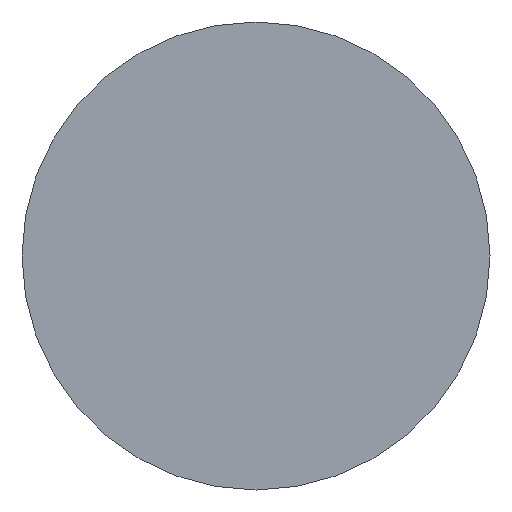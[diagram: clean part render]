
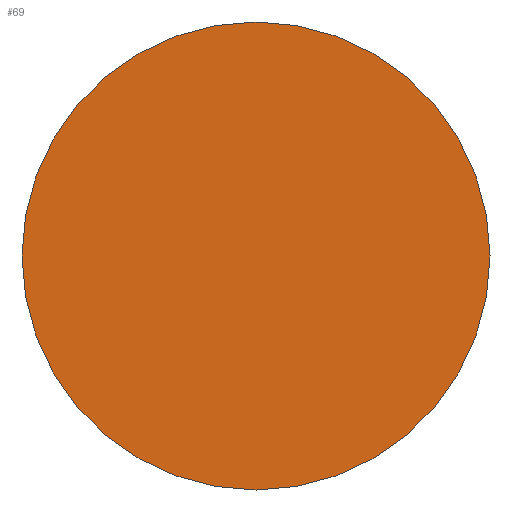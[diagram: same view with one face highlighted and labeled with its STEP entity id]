
A CAD part, front view. The second image highlights one B-rep face of the part: STEP entity #69.
In plain terms, the highlighted planar face has unit normal (0, -1, 0).
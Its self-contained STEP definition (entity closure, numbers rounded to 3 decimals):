
#36 = EDGE_LOOP ( 'NONE', ( #202, #99 ) ) ;
#68 = CARTESIAN_POINT ( 'NONE',  ( 0., 0., 0. ) ) ;
#69 = ADVANCED_FACE ( '$', ( #78 ), #233, .T. ) ;
#78 = FACE_OUTER_BOUND ( 'NONE', #36, .T. ) ;
#97 = AXIS2_PLACEMENT_3D ( 'NONE', #329, #204, #116 ) ;
#99 = ORIENTED_EDGE ( 'NONE', *, *, #310, .F. ) ;
#116 = DIRECTION ( 'NONE',  ( 1., 0., 0. ) ) ;
#126 = DIRECTION ( 'NONE',  ( -1., 0., 0. ) ) ;
#130 = VERTEX_POINT ( 'NONE', #239 ) ;
#185 = DIRECTION ( 'NONE',  ( 0., 1., 0. ) ) ;
#202 = ORIENTED_EDGE ( 'NONE', *, *, #237, .F. ) ;
#204 = DIRECTION ( 'NONE',  ( 0., -1., 0. ) ) ;
#209 = CARTESIAN_POINT ( 'NONE',  ( 0., 0., 0. ) ) ;
#217 = CIRCLE ( 'NONE', #232, 1.5 ) ;
#220 = CARTESIAN_POINT ( 'NONE',  ( 0., 0., 1.5 ) ) ;
#232 = AXIS2_PLACEMENT_3D ( 'NONE', #68, #185, #126 ) ;
#233 = PLANE ( 'NONE',  #97 ) ;
#237 = EDGE_CURVE ( 'NONE', #130, #334, #320, .T. ) ;
#239 = CARTESIAN_POINT ( 'NONE',  ( 0., 0., -1.5 ) ) ;
#280 = AXIS2_PLACEMENT_3D ( 'NONE', #209, #307, #339 ) ;
#307 = DIRECTION ( 'NONE',  ( 0., 1., 0. ) ) ;
#310 = EDGE_CURVE ( 'NONE', #334, #130, #217, .T. ) ;
#320 = CIRCLE ( 'NONE', #280, 1.5 ) ;
#329 = CARTESIAN_POINT ( 'NONE',  ( -1.5, 0., 0. ) ) ;
#334 = VERTEX_POINT ( 'NONE', #220 ) ;
#339 = DIRECTION ( 'NONE',  ( -1., 0., 0. ) ) ;
